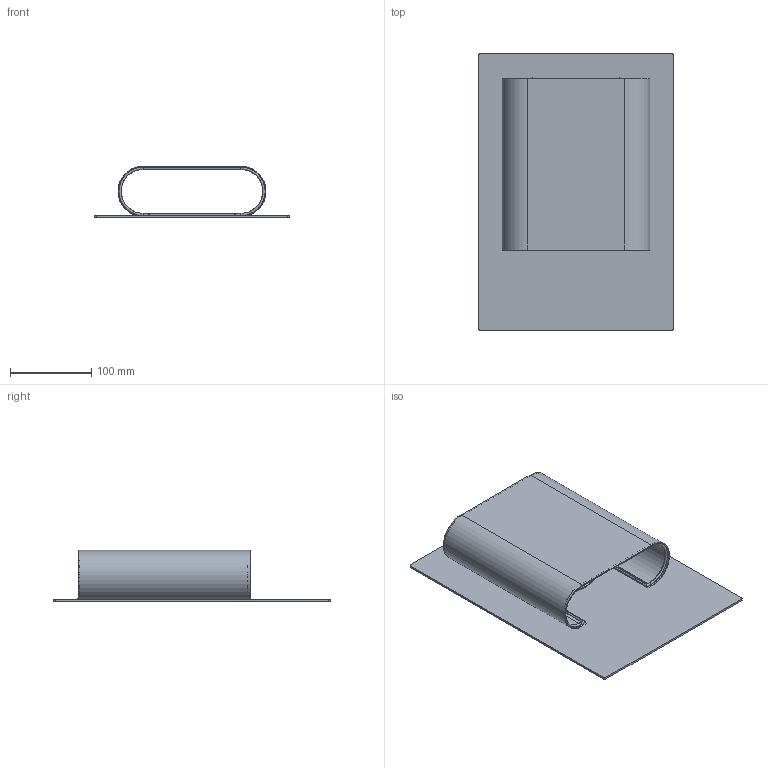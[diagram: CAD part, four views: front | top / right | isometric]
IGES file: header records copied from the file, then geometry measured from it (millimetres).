
Start section: SolidWorks IGES file using analytic representation for surfaces
Global section: file name: C:\Users\Joandita\Dropbox\Rakumba Industrial Design\PRODUCT\2 DEVELOPMENT\ELWOOD\CAD\Final Assembly\Elwood Portrait Indoor - Lightweight.IGS; native system: SolidWorks 2017; preprocessor: SolidWorks 2017; author: Joandita; date: 230904.141014; units: millimetre
Bounding box: 240 x 340 x 63.5 mm (x, y, z)
Surface area: 320235.4 mm2 (no closed solid volume)
Topology: 0 solids, 0 shells, 72 faces, 1270 edges, 1270 vertices
Faces by surface type: bspline 36, revolution 36
